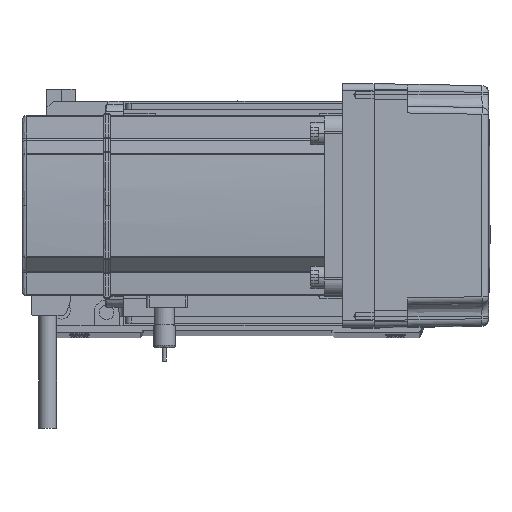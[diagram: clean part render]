
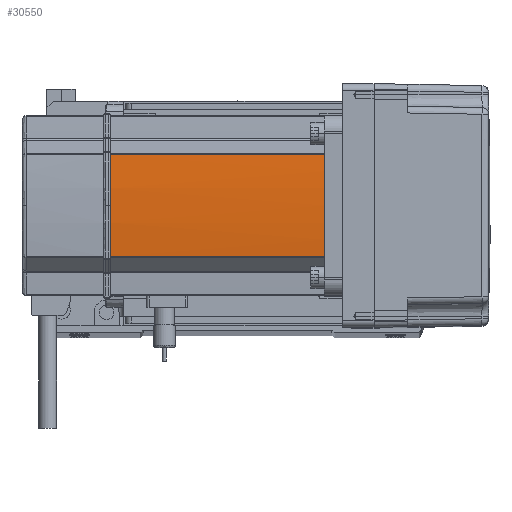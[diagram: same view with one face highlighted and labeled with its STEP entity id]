
A CAD part, top view. The second image highlights one B-rep face of the part: STEP entity #30550.
In plain terms, the highlighted cylindrical face has radius 270 mm (diameter 540 mm), a partial arc.
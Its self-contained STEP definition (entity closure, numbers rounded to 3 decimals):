
#746 = ORIENTED_EDGE ( 'NONE', *, *, #42087, .F. ) ;
#1842 = FACE_OUTER_BOUND ( 'NONE', #24685, .T. ) ;
#2568 = DIRECTION ( 'NONE',  ( 0., 0., -1. ) ) ;
#4246 = CARTESIAN_POINT ( 'NONE',  ( 230., 0., 0. ) ) ;
#8560 = VERTEX_POINT ( 'NONE', #52315 ) ;
#8818 = ORIENTED_EDGE ( 'NONE', *, *, #25769, .T. ) ;
#8867 = AXIS2_PLACEMENT_3D ( 'NONE', #39582, #58006, #11997 ) ;
#11206 = CYLINDRICAL_SURFACE ( 'NONE', #48055, 270. ) ;
#11213 = VECTOR ( 'NONE', #22971, 1000. ) ;
#11997 = DIRECTION ( 'NONE',  ( 1., 0., 0. ) ) ;
#13895 = CARTESIAN_POINT ( 'NONE',  ( -39.042, 22.724, 134. ) ) ;
#18781 = AXIS2_PLACEMENT_3D ( 'NONE', #34795, #2568, #21282 ) ;
#20775 = ORIENTED_EDGE ( 'NONE', *, *, #37146, .T. ) ;
#21282 = DIRECTION ( 'NONE',  ( 1., 0., 0. ) ) ;
#22084 = LINE ( 'NONE', #51112, #41555 ) ;
#22820 = VERTEX_POINT ( 'NONE', #39602 ) ;
#22971 = DIRECTION ( 'NONE',  ( 0., 0., 1. ) ) ;
#23172 = VERTEX_POINT ( 'NONE', #47001 ) ;
#23792 = DIRECTION ( 'NONE',  ( 0., 0., -1. ) ) ;
#23908 = DIRECTION ( 'NONE',  ( 0., 0., -1. ) ) ;
#24685 = EDGE_LOOP ( 'NONE', ( #33980, #20775, #41743, #746, #8818 ) ) ;
#25769 = EDGE_CURVE ( 'NONE', #23172, #22820, #40051, .T. ) ;
#26511 = EDGE_CURVE ( 'NONE', #22820, #8560, #54252, .T. ) ;
#30550 = ADVANCED_FACE ( 'NONE', ( #1842 ), #11206, .T. ) ;
#33130 = DIRECTION ( 'NONE',  ( 1., 0., 0. ) ) ;
#33980 = ORIENTED_EDGE ( 'NONE', *, *, #26511, .T. ) ;
#34795 = CARTESIAN_POINT ( 'NONE',  ( 230., 0., 134. ) ) ;
#37146 = EDGE_CURVE ( 'NONE', #8560, #38125, #46546, .T. ) ;
#37723 = CARTESIAN_POINT ( 'NONE',  ( -39.042, 22.724, 39. ) ) ;
#38125 = VERTEX_POINT ( 'NONE', #13895 ) ;
#39082 = AXIS2_PLACEMENT_3D ( 'NONE', #47227, #23908, #33130 ) ;
#39582 = CARTESIAN_POINT ( 'NONE',  ( 230., 0., 134. ) ) ;
#39602 = CARTESIAN_POINT ( 'NONE',  ( -39.042, -22.724, 134. ) ) ;
#40051 = LINE ( 'NONE', #55497, #11213 ) ;
#41555 = VECTOR ( 'NONE', #23792, 1000. ) ;
#41743 = ORIENTED_EDGE ( 'NONE', *, *, #53025, .T. ) ;
#42087 = EDGE_CURVE ( 'NONE', #23172, #43032, #57950, .T. ) ;
#43032 = VERTEX_POINT ( 'NONE', #37723 ) ;
#46546 = CIRCLE ( 'NONE', #18781, 270. ) ;
#47001 = CARTESIAN_POINT ( 'NONE',  ( -39.042, -22.724, 39. ) ) ;
#47227 = CARTESIAN_POINT ( 'NONE',  ( 230., 0., 39. ) ) ;
#48055 = AXIS2_PLACEMENT_3D ( 'NONE', #4246, #50104, #55299 ) ;
#50104 = DIRECTION ( 'NONE',  ( 0., 0., 1. ) ) ;
#51112 = CARTESIAN_POINT ( 'NONE',  ( -39.042, 22.724, 0. ) ) ;
#52315 = CARTESIAN_POINT ( 'NONE',  ( -40., 0., 134. ) ) ;
#53025 = EDGE_CURVE ( 'NONE', #38125, #43032, #22084, .T. ) ;
#54252 = CIRCLE ( 'NONE', #8867, 270. ) ;
#55299 = DIRECTION ( 'NONE',  ( 1., 0., 0. ) ) ;
#55497 = CARTESIAN_POINT ( 'NONE',  ( -39.042, -22.724, 0. ) ) ;
#57950 = CIRCLE ( 'NONE', #39082, 270. ) ;
#58006 = DIRECTION ( 'NONE',  ( 0., 0., -1. ) ) ;
